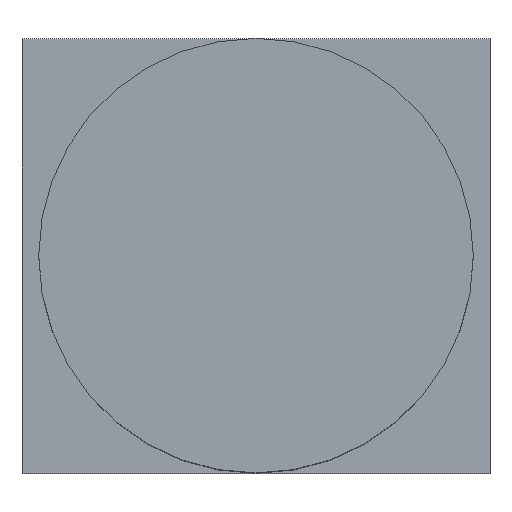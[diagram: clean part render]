
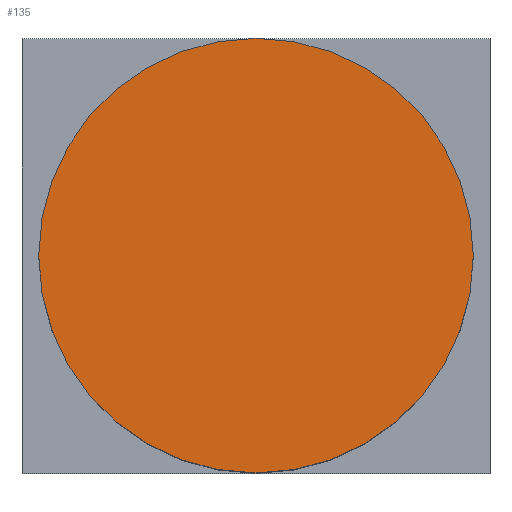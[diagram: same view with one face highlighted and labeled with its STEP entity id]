
A CAD part, top view. The second image highlights one B-rep face of the part: STEP entity #135.
In plain terms, the highlighted planar face has unit normal (0, 0, 1).
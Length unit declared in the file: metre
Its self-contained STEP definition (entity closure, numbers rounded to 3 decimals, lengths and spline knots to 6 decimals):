
#40=PLANE('',#160);
#51=ORIENTED_EDGE('',*,*,#82,.F.);
#82=EDGE_CURVE('',#99,#99,#110,.T.);
#99=VERTEX_POINT('',#211);
#110=CIRCLE('',#157,0.00325);
#115=EDGE_LOOP('',(#51));
#125=FACE_BOUND('',#115,.T.);
#135=ADVANCED_FACE('',(#125),#40,.T.);
#157=AXIS2_PLACEMENT_3D('',#210,#172,#173);
#160=AXIS2_PLACEMENT_3D('',#216,#178,#179);
#172=DIRECTION('',(0.,0.,-1.));
#173=DIRECTION('',(-1.,0.,0.));
#178=DIRECTION('',(0.,0.,1.));
#179=DIRECTION('',(-1.,0.,0.));
#210=CARTESIAN_POINT('',(0.093487,0.025487,0.0126));
#211=CARTESIAN_POINT('',(0.090237,0.025487,0.0126));
#216=CARTESIAN_POINT('',(0.073468,0.007448,0.0126));
